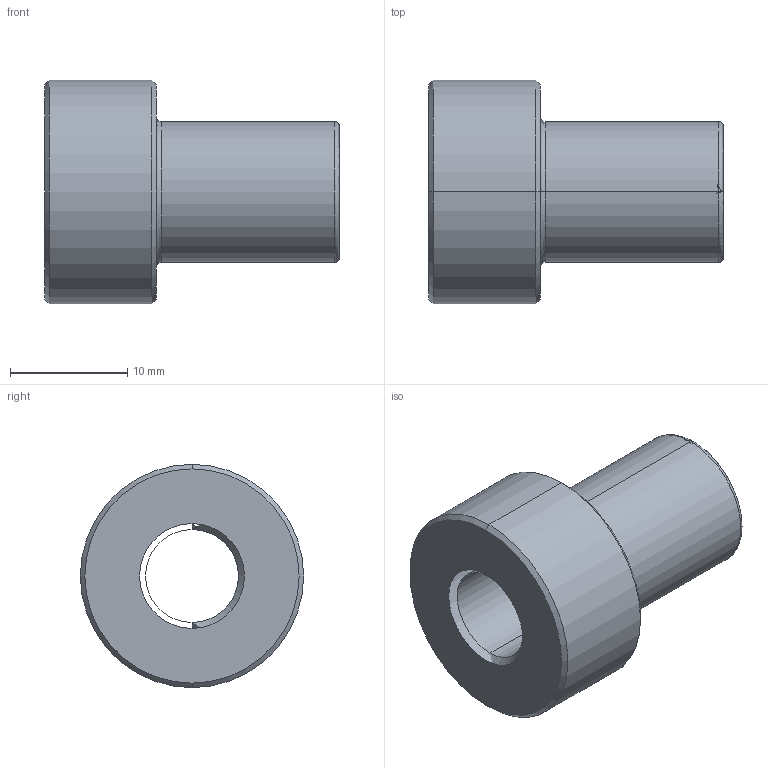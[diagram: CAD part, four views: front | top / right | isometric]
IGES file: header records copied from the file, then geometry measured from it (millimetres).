
Start section: 3D InterOp IGES (v. 2019 1.0.2), Spatial Corp. Copyright (c) 1999-2017.
Global section: file name: B3SS.igs; native system: Spatial Corp.; preprocessor: 3D InterOp GENERIC/IGES 3.0; author: Noname; organization: Noname; date: 20200930.105759; units: millimetre
Bounding box: 25.14 x 19.05 x 19.05 mm (x, y, z)
Surface area: 2322.2 mm2 (no closed solid volume)
Topology: 0 solids, 0 shells, 21 faces, 88 edges, 86 vertices
Faces by surface type: revolution 18, extrusion 3
